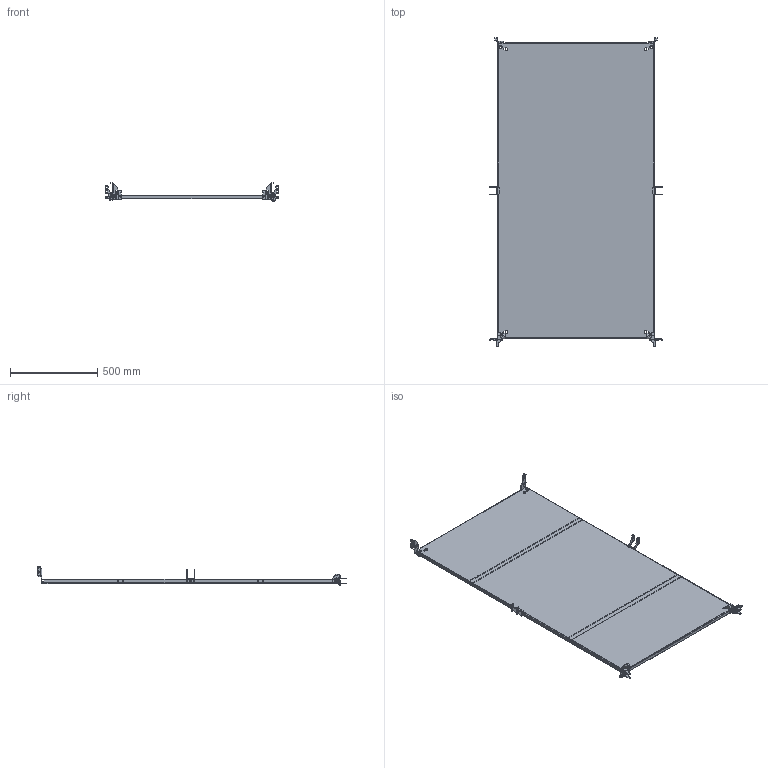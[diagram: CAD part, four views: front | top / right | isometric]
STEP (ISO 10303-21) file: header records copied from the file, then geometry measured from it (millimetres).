
FILE_DESCRIPTION (( 'STEP AP214' ), '1' );
FILE_NAME ('MSD 180.100 ÑÁ Ìîíòàæíàÿ ïàíåëü â ñáîðå.STEP', '2023-12-11T04:46:52', ( '' ), ( '' ), 'SwSTEP 2.0', 'SolidWorks 2019', '' );
FILE_SCHEMA (( 'AUTOMOTIVE_DESIGN' ));
Length unit declared in the file: millimetre
Products named in the file (13): TS-011_R Íèæíèé äåðæàòåëü ìîíòàæíîé ïàíåëè; TS-010_R Âåðõíèé äåðæàòåëü ìîíòàæíîé ïàíåëè; MPP Y  Óñèëèòåëü ìîíòàæíîé ïàíåëè_MPU 100; MSD 180.100 ÑÁ Ìîíòàæíàÿ ïàíåëü â ñáîðå; MPP Y  Óñèëèòåëü ìîíòàæíîé ïàíåëè â ñáîðå_MPU 100; BMD 6 Ôèêñàòîð ìîíòàæíîé ïàíåëè; TS-011_L Íèæíèé äåðæàòåëü ìîíòàæíîé ïàíåëè; TS-010_L Âåðõíèé äåðæàòåëü ìîíòàæíîé ïàíåëè; TS-012 Íèæíèé äåðæàòåëü ìîíòàæíîé ïàíåëè; Ãàéêà çàêëàäíàÿ êâàäðàòíàÿ îö. Ì6 1,7-2,7_ƒ ©ª  § ª« ¤­ ï ª¢ ¤à â­ ï ®æ. Œ6 2,8-3,5; MSD X.Y Ìîíòàæíàÿ ïàíåëü_MSD 180.100 Œ®­â ¦­ ï ¯ ­¥«ì; socket button head screw_iso_ISO 7380 - M6 x 12 --- 12N
Assembly tree (21 placements, depth 3):
  MSD 180.100 ÑÁ Ìîíòàæíàÿ ïàíåëü â ñáîðå
    MSD X.Y Ìîíòàæíàÿ ïàíåëü_MSD 180.100 Œ®­â ¦­ ï ¯ ­¥«ì
    TS-011_L Íèæíèé äåðæàòåëü ìîíòàæíîé ïàíåëè
    TS-011_R Íèæíèé äåðæàòåëü ìîíòàæíîé ïàíåëè
    TS-010_R Âåðõíèé äåðæàòåëü ìîíòàæíîé ïàíåëè
    TS-010_L Âåðõíèé äåðæàòåëü ìîíòàæíîé ïàíåëè
    TS-012 Íèæíèé äåðæàòåëü ìîíòàæíîé ïàíåëè  x2
    BMD 6 Ôèêñàòîð ìîíòàæíîé ïàíåëè  x2
    MPP Y  Óñèëèòåëü ìîíòàæíîé ïàíåëè â ñáîðå_MPU 100
      MPP Y  Óñèëèòåëü ìîíòàæíîé ïàíåëè_MPU 100
      Ãàéêà çàêëàäíàÿ êâàäðàòíàÿ îö. Ì6 1,7-2,7_ƒ ©ª  § ª« ¤­ ï ª¢ ¤à â­ ï ®æ. Œ6 2,8-3,5  x2
    MPP Y  Óñèëèòåëü ìîíòàæíîé ïàíåëè â ñáîðå_MPU 100
      MPP Y  Óñèëèòåëü ìîíòàæíîé ïàíåëè_MPU 100
      Ãàéêà çàêëàäíàÿ êâàäðàòíàÿ îö. Ì6 1,7-2,7_ƒ ©ª  § ª« ¤­ ï ª¢ ¤à â­ ï ®æ. Œ6 2,8-3,5  x2
    socket button head screw_iso_ISO 7380 - M6 x 12 --- 12N  x4
Bounding box: 994 x 1771.5 x 103.7 mm (x, y, z)
Volume: 4603519.9 mm3; surface area: 3732801.2 mm2
Topology: 23 solids, 23 shells, 1846 faces, 4750 edges, 2956 vertices
Faces by surface type: plane 1114, cylinder 688, cone 20, bspline 8, torus 8, sphere 8
Entity records: 31622 total; most frequent: CARTESIAN_POINT 5799, DIRECTION 5364, ORIENTED_EDGE 5228, EDGE_CURVE 2614, AXIS2_PLACEMENT_3D 1805, LINE 1754, VECTOR 1754, VERTEX_POINT 1661
